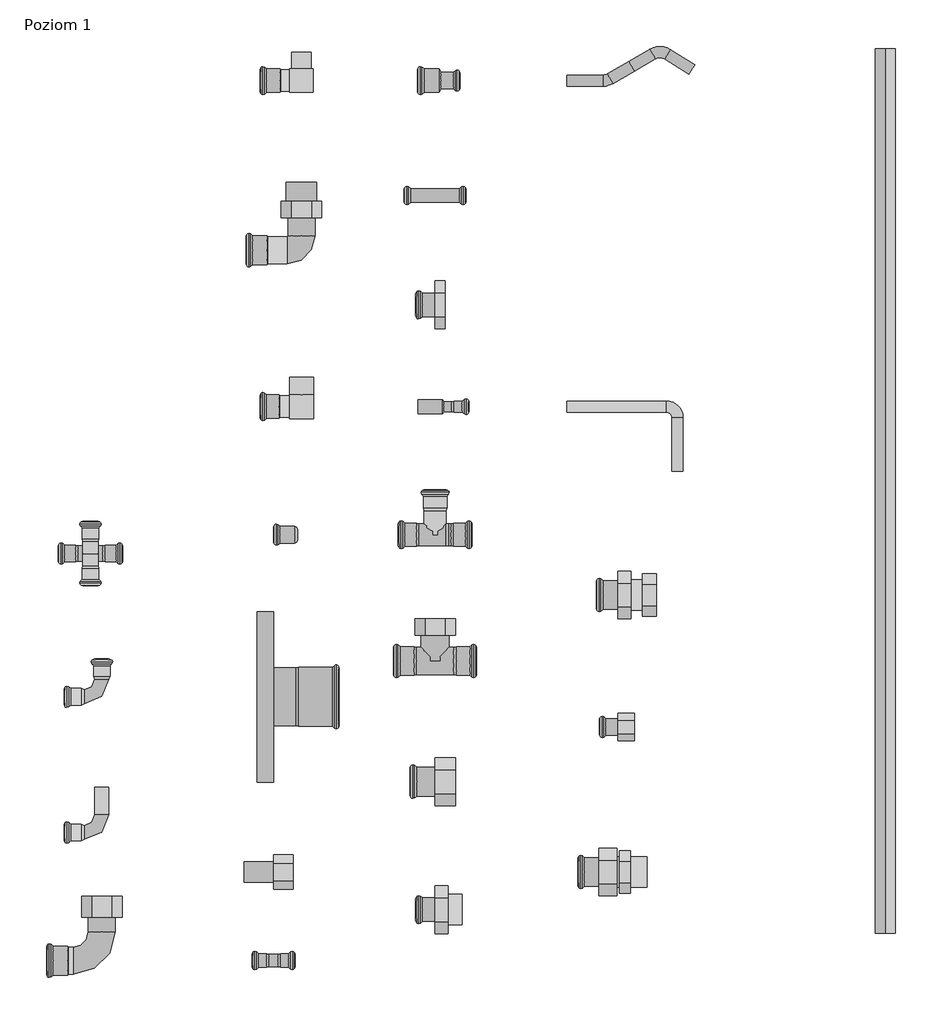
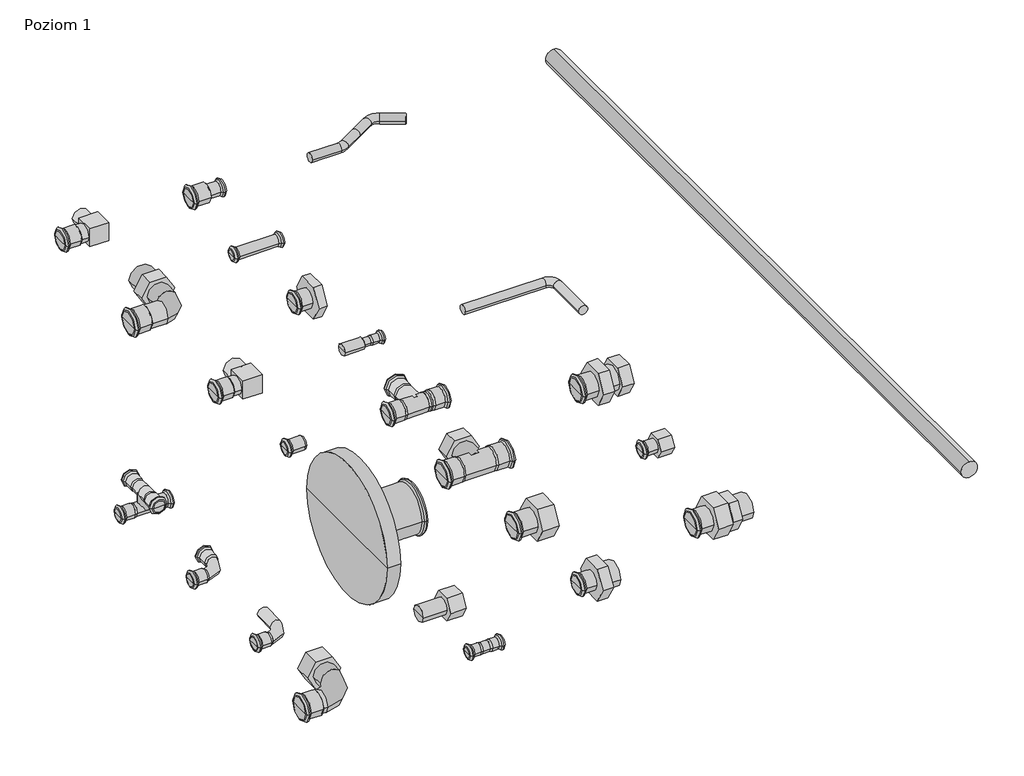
# One storey, incomplete: 24 pipe fittings, 1 pipe segment.
"""IFC4 building model written with IfcOpenShell, lengths in millimetres."""

from ifc_helpers import new_model, si_unit, point, frame, frame_2d, origin, place, context, project, spatial, circle_curve, trimmed, segment, composite_curve, outline, extrude, transform, mapped, element, save
from components import pipe_fitting_08f12846, pipe_fitting_ae6cc862, pipe_fitting_c5b9b631, pipe_fitting_27f88213, pipe_fitting_2a5535a6, pipe_fitting_5a79280a, pipe_fitting_a91a79c0, pipe_fitting_d84e530c, pipe_fitting_25d2a00c, pipe_fitting_2788c535, pipe_fitting_8b53cf8f, pipe_fitting_3d17be56, pipe_fitting_25c9af5d, pipe_fitting_bfdfb1c6, pipe_fitting_d79643fc, pipe_fitting_c4248d66, pipe_fitting_b56d1ab0, pipe_fitting_583e1adf, pipe_fitting_afff2d30, pipe_fitting_14387145, pipe_fitting_8f5b5a92, pipe_fitting_64cd614b, pipe_fitting_f1a50fe9, pipe_fitting_d7101d84

model = new_model("IFC4")

# Units and contexts
model_context = context("Model", 3, world=origin())
ifc_project = project(units=[si_unit("LENGTHUNIT", "METRE", prefix="MILLI")], contexts=[model_context])

# Site, building, storey
site = spatial("IfcSite", under=ifc_project)
building = spatial("IfcBuilding", under=site)
storey = spatial("IfcBuildingStorey", under=building, Name="Poziom 1", Elevation=0.0)

# Pipe fittings
placement = place(None, origin())
pipe_fitting_shape = pipe_fitting_08f12846(model_context)
element("IfcPipeFitting", 1, ObjectType="KAN-therm Steel czwórnik przelotowy : KAN-therm Steel czwórnik przelotowy", at=placement, inside=storey, context=model_context, shape_type="MappedRepresentation", body=[
    mapped(pipe_fitting_shape, transform((-10166.7773758, 55.5517691, 0.0), x_axis=(1.0, 0.0, 0.0), y_axis=(0.0, 1.0, 0.0), z_axis=(0.0, 0.0, 1.0))),
])
pipe_fitting_2_shape = pipe_fitting_ae6cc862(model_context)
element("IfcPipeFitting", 2, ObjectType="KAN-therm Steel kolano 45,90 : KAN-therm Steel kolano 45,90", at=placement, inside=storey, context=model_context, shape_type="MappedRepresentation", body=[
    mapped(pipe_fitting_2_shape, transform((-10154.5093608, -99.8430871, 0.0), x_axis=(1.0, 0.0, 0.0), y_axis=(0.0, 1.0, 0.0), z_axis=(0.0, 0.0, 1.0))),
])
pipe_fitting_3_shape = pipe_fitting_c5b9b631(model_context)
element("IfcPipeFitting", 3, ObjectType="KAN-therm Steel kolano nyplowe 45,90 : KAN-therm Steel kolano nyplowe 45,90", at=placement, inside=storey, context=model_context, shape_type="MappedRepresentation", body=[
    mapped(pipe_fitting_3_shape, transform((-10154.5093608, -247.0592666, 0.0), x_axis=(1.0, 0.0, 0.0), y_axis=(0.0, 1.0, 0.0), z_axis=(0.0, 0.0, 1.0))),
])
pipe_fitting_4_shape = pipe_fitting_27f88213(model_context)
element("IfcPipeFitting", 4, ObjectType="KAN-therm Steel kołnierz PN16 : KAN-therm Steel kołnierz PN16", at=placement, inside=storey, context=model_context, shape_type="MappedRepresentation", body=[
    mapped(pipe_fitting_4_shape, transform((-9985.8637682, -99.8430871, 0.0), x_axis=(1.0, 0.0, 0.0), y_axis=(0.0, 1.0, 0.0), z_axis=(0.0, 0.0, 1.0))),
])
pipe_fitting_5_shape = pipe_fitting_2a5535a6(model_context)
element("IfcPipeFitting", 5, ObjectType="KAN-therm Steel korek : KAN-therm Steel korek", at=placement, inside=storey, context=model_context, shape_type="MappedRepresentation", body=[
    mapped(pipe_fitting_5_shape, transform((-9967.9977756, 75.9984607, 0.0), x_axis=(1.0, 0.0, 0.0), y_axis=(0.0, 1.0, 0.0), z_axis=(0.0, 0.0, 1.0))),
])
pipe_fitting_6_shape = pipe_fitting_5a79280a(model_context)
element("IfcPipeFitting", 6, ObjectType="KAN-therm Steel łuk 90 : KAN-therm Steel łuk 90", at=placement, inside=storey, context=model_context, shape_type="MappedRepresentation", body=[
    mapped(pipe_fitting_6_shape, transform((-9649.4760782, 215.0359636, 0.0), x_axis=(1.0, 0.0, 0.0), y_axis=(0.0, 1.0, 0.0), z_axis=(0.0, 0.0, 1.0))),
])
pipe_fitting_7_shape = pipe_fitting_a91a79c0(model_context)
element("IfcPipeFitting", 7, ObjectType="KAN-therm Steel mufa redukcyjna : KAN-therm Steel mufa redukcyjna", at=placement, inside=storey, context=model_context, shape_type="MappedRepresentation", body=[
    mapped(pipe_fitting_7_shape, transform((-9788.5135811, 568.7637284, 0.0), x_axis=(1.0, 0.0, 0.0), y_axis=(0.0, 1.0, 0.0), z_axis=(0.0, 0.0, 1.0))),
])
pipe_fitting_8_shape = pipe_fitting_d84e530c(model_context)
element("IfcPipeFitting", 8, ObjectType="KAN-therm Steel mufa : KAN-therm Steel mufa", at=placement, inside=storey, context=model_context, shape_type="MappedRepresentation", body=[
    mapped(pipe_fitting_8_shape, transform((-9967.9977756, -386.0967695, 0.0), x_axis=(1.0, 0.0, 0.0), y_axis=(0.0, 1.0, 0.0), z_axis=(0.0, 0.0, 1.0))),
])
pipe_fitting_9_shape = pipe_fitting_25d2a00c(model_context)
element("IfcPipeFitting", 9, ObjectType="KAN-therm Steel obejście : KAN-therm Steel obejście", at=placement, inside=storey, context=model_context, shape_type="MappedRepresentation", body=[
    mapped(pipe_fitting_9_shape, transform((-9649.4760782, 568.7637284, 0.0), x_axis=(1.0, 0.0, 0.0), y_axis=(0.0, 1.0, 0.0), z_axis=(0.0, 0.0, 1.0))),
])
pipe_fitting_10_shape = pipe_fitting_2788c535(model_context)
element("IfcPipeFitting", 10, ObjectType="KAN-therm Steel przedłużka : KAN-therm Steel przedłużka", at=placement, inside=storey, context=model_context, shape_type="MappedRepresentation", body=[
    mapped(pipe_fitting_10_shape, transform((-9792.6029194, 444.0389096, 0.0), x_axis=(1.0, 0.0, 0.0), y_axis=(0.0, 1.0, 0.0), z_axis=(0.0, 0.0, 1.0))),
])
pipe_fitting_11_shape = pipe_fitting_8b53cf8f(model_context)
element("IfcPipeFitting", 11, ObjectType="KAN-therm Steel redukcja nyplowa : KAN-therm Steel redukcja nyplowa", at=placement, inside=storey, context=model_context, shape_type="MappedRepresentation", body=[
    mapped(pipe_fitting_11_shape, transform((-9811.0049419, 215.0359636, 0.0), x_axis=(1.0, 0.0, 0.0), y_axis=(0.0, 1.0, 0.0), z_axis=(0.0, 0.0, 1.0))),
])
pipe_fitting_12_shape = pipe_fitting_3d17be56(model_context)
element("IfcPipeFitting", 12, ObjectType="KAN-therm Steel trójnik : KAN-therm Steel trójnik", at=placement, inside=storey, context=model_context, shape_type="MappedRepresentation", body=[
    mapped(pipe_fitting_12_shape, transform((-9792.6029194, 75.9984607, 0.0), x_axis=(1.0, 0.0, 0.0), y_axis=(0.0, 1.0, 0.0), z_axis=(0.0, 0.0, 1.0))),
])
pipe_fitting_13_shape = pipe_fitting_25c9af5d(model_context)
element("IfcPipeFitting", 13, ObjectType="KAN-therm Steel kolano z GW : 1\"", at=placement, inside=storey, context=model_context, shape_type="MappedRepresentation", body=[
    mapped(pipe_fitting_13_shape, transform((-10154.5093608, -386.0967695, 0.0), x_axis=(1.0, 0.0, 0.0), y_axis=(0.0, 1.0, 0.0), z_axis=(0.0, 0.0, 1.0))),
])
pipe_fitting_14_shape = pipe_fitting_bfdfb1c6(model_context)
element("IfcPipeFitting", 14, ObjectType="KAN-therm Steel kolano z GZ : 1\"", at=placement, inside=storey, context=model_context, shape_type="MappedRepresentation", body=[
    mapped(pipe_fitting_14_shape, transform((-9937.7744298, 384.743504, 0.0), x_axis=(1.0, 0.0, 0.0), y_axis=(0.0, 1.0, 0.0), z_axis=(0.0, 0.0, 1.0))),
])
pipe_fitting_15_shape = pipe_fitting_d79643fc(model_context)
element("IfcPipeFitting", 15, ObjectType="KAN-therm Steel półśrubunek GW : 1\"", at=placement, inside=storey, context=model_context, shape_type="MappedRepresentation", body=[
    mapped(pipe_fitting_15_shape, transform((-9792.6029194, 325.4480983, 0.0), x_axis=(1.0, 0.0, 0.0), y_axis=(0.0, 1.0, 0.0), z_axis=(0.0, 0.0, 1.0))),
])
pipe_fitting_16_shape = pipe_fitting_c4248d66(model_context)
element("IfcPipeFitting", 16, ObjectType="KAN-therm Steel śrubunek GW : 1\"", at=placement, inside=storey, context=model_context, shape_type="MappedRepresentation", body=[
    mapped(pipe_fitting_16_shape, transform((-9594.2700109, 10.5690476, 0.0), x_axis=(1.0, 0.0, 0.0), y_axis=(0.0, 1.0, 0.0), z_axis=(0.0, 0.0, 1.0))),
])
pipe_fitting_17_shape = pipe_fitting_b56d1ab0(model_context)
element("IfcPipeFitting", 17, ObjectType="KAN-therm Steel śrubunek GZ : 1\"", at=placement, inside=storey, context=model_context, shape_type="MappedRepresentation", body=[
    mapped(pipe_fitting_17_shape, transform((-9614.7167025, -289.997319, 0.0), x_axis=(1.0, 0.0, 0.0), y_axis=(0.0, 1.0, 0.0), z_axis=(0.0, 0.0, 1.0))),
])
pipe_fitting_18_shape = pipe_fitting_583e1adf(model_context)
element("IfcPipeFitting", 18, ObjectType="KAN-therm Steel trójnik z GW : 1\"", at=placement, inside=storey, context=model_context, shape_type="MappedRepresentation", body=[
    mapped(pipe_fitting_18_shape, transform((-9792.6029194, -60.994373, 0.0), x_axis=(1.0, 0.0, 0.0), y_axis=(0.0, 1.0, 0.0), z_axis=(0.0, 0.0, 1.0))),
])
pipe_fitting_19_shape = pipe_fitting_afff2d30(model_context)
element("IfcPipeFitting", 19, ObjectType="KAN-therm Steel złączka z GW : 1\"", at=placement, inside=storey, context=model_context, shape_type="MappedRepresentation", body=[
    mapped(pipe_fitting_19_shape, transform((-9792.6029194, -191.8531993, 0.0), x_axis=(1.0, 0.0, 0.0), y_axis=(0.0, 1.0, 0.0), z_axis=(0.0, 0.0, 1.0))),
])
pipe_fitting_20_shape = pipe_fitting_14387145(model_context)
element("IfcPipeFitting", 20, ObjectType="KAN-therm Steel złączka z GZ : 1\"", at=placement, inside=storey, context=model_context, shape_type="MappedRepresentation", body=[
    mapped(pipe_fitting_20_shape, transform((-9792.6029194, -330.8907022, 0.0), x_axis=(1.0, 0.0, 0.0), y_axis=(0.0, 1.0, 0.0), z_axis=(0.0, 0.0, 1.0))),
])
pipe_fitting_21_shape = pipe_fitting_8f5b5a92(model_context)
element("IfcPipeFitting", 21, ObjectType="KAN-therm Steel kolano z GW krótkie : 1/2\"", at=placement, inside=storey, context=model_context, shape_type="MappedRepresentation", body=[
    mapped(pipe_fitting_21_shape, transform((-9937.7744298, 568.7637284, 0.0), x_axis=(1.0, 0.0, 0.0), y_axis=(0.0, 1.0, 0.0), z_axis=(0.0, 0.0, 1.0))),
])
pipe_fitting_22_shape = pipe_fitting_64cd614b(model_context)
element("IfcPipeFitting", 22, ObjectType="KAN-therm Steel końcówka z GW do zaprasowania : 3/4\"", at=placement, inside=storey, context=model_context, shape_type="MappedRepresentation", body=[
    mapped(pipe_fitting_22_shape, transform((-9967.9977756, -289.997319, 0.0), x_axis=(1.0, 0.0, 0.0), y_axis=(0.0, 1.0, 0.0), z_axis=(0.0, 0.0, 1.0))),
])
pipe_fitting_23_shape = pipe_fitting_f1a50fe9(model_context)
element("IfcPipeFitting", 23, ObjectType="KAN-therm Steel śrubunek GW (VK) : 3/4\"", at=placement, inside=storey, context=model_context, shape_type="MappedRepresentation", body=[
    mapped(pipe_fitting_23_shape, transform((-9594.2700109, -132.5577936, 0.0), x_axis=(1.0, 0.0, 0.0), y_axis=(0.0, 1.0, 0.0), z_axis=(0.0, 0.0, 1.0))),
])
pipe_fitting_24_shape = pipe_fitting_d7101d84(model_context)
element("IfcPipeFitting", 24, ObjectType="KAN-therm Steel kolano z GZ krótkie : 3/4\"", at=placement, inside=storey, context=model_context, shape_type="MappedRepresentation", body=[
    mapped(pipe_fitting_24_shape, transform((-9937.7744298, 215.0359636, 0.0), x_axis=(1.0, 0.0, 0.0), y_axis=(0.0, 1.0, 0.0), z_axis=(0.0, 0.0, 1.0))),
])

# Pipe segment
element("IfcPipeSegment", 25, ObjectType="KAN-therm Steel", at=placement, inside=storey, context=model_context, shape_type="SweptSolid", body=[
    extrude(outline(composite_curve([segment(trimmed(circle_curve(frame_2d((0.0, -9303.9269901)), 11.0), [point((0.0, -9314.9269901))], [point((-11.0, -9303.9269901))], False, "CARTESIAN"), True, "CONTINUOUS"), segment(trimmed(circle_curve(frame_2d((0.0, -9303.9269901)), 11.0), [point((-11.0, -9303.9269901))], [point((0.0, -9292.9269901))], False, "CARTESIAN"), True, "CONTINUOUS"), segment(trimmed(circle_curve(frame_2d((0.0, -9303.9269901)), 11.0), [point((0.0, -9292.9269901))], [point((11.0, -9303.9269901))], False, "CARTESIAN"), True, "CONTINUOUS"), segment(trimmed(circle_curve(frame_2d((0.0, -9303.9269901)), 11.0), [point((11.0, -9303.9269901))], [point((0.0, -9314.9269901))], False, "CARTESIAN"), True, "CONTINUOUS")], self_intersect=False)), frame((0.0, -356.4768959, 0.0), z_axis=(0.0, 1.0, 0.0), x_axis=(0.0, 0.0, 1.0)), (0.0, 0.0, 1.0), 960.0),
])

save(model, "model.ifc")
